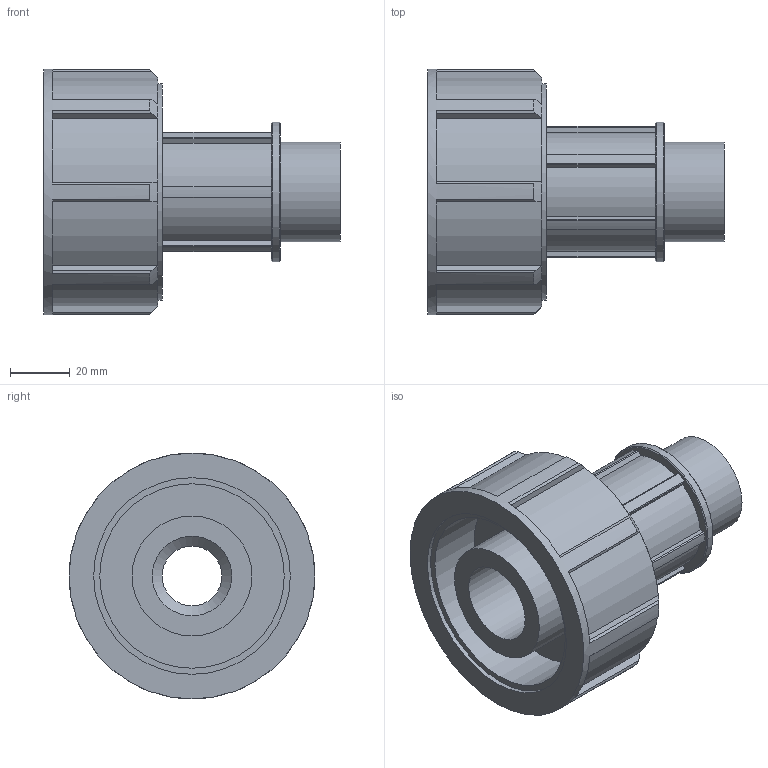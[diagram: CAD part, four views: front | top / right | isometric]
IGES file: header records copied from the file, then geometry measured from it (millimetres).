
Global section: file name: 072500040010_182500040010_0725060400100A.ipt; native system: Autodesk Inventor 2015; preprocessor: unknown; author: KIM; date: 20170608.042144; units: millimetre
Bounding box: 99 x 82 x 82 mm (x, y, z)
Volume: 161406.6 mm3; surface area: 48270.1 mm2
Topology: 1 solids, 1 shells, 115 faces, 322 edges, 217 vertices
Faces by surface type: plane 74, cylinder 25, cone 10, revolution 6
Full cylindrical faces by diameter (mm): 33.249 x1, 40 x1, 46.549 x1, 72.16 x1, 82 x1
